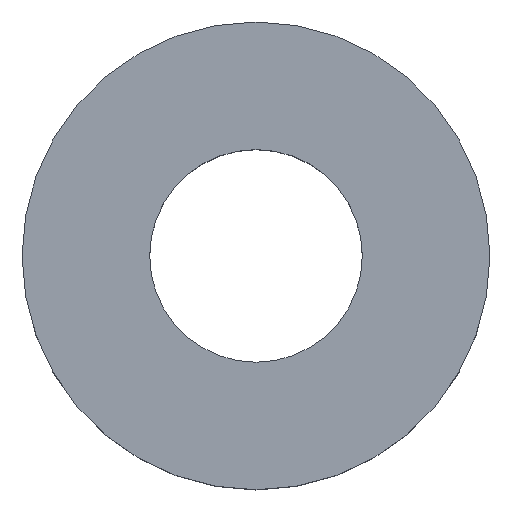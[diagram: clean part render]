
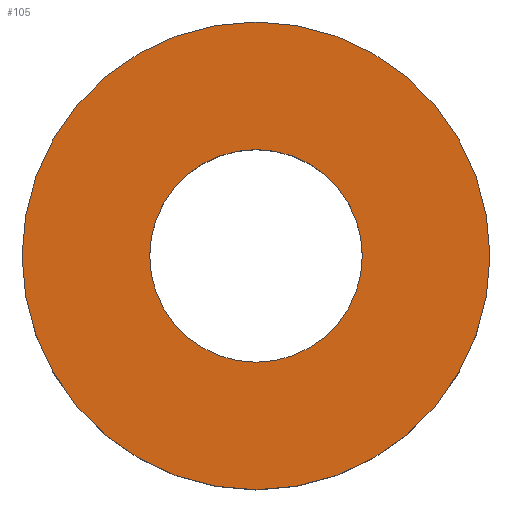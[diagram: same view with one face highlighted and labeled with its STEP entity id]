
A CAD part, top view. The second image highlights one B-rep face of the part: STEP entity #105.
In plain terms, the highlighted planar face has unit normal (0, 0, 1).
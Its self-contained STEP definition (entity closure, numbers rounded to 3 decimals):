
#21 = EDGE_CURVE('',#22,#22,#24,.T.);
#22 = VERTEX_POINT('',#23);
#23 = CARTESIAN_POINT('',(55.,0.,-50.));
#24 = SURFACE_CURVE('',#25,(#30,#42),.PCURVE_S1.);
#25 = CIRCLE('',#26,55.);
#26 = AXIS2_PLACEMENT_3D('',#27,#28,#29);
#27 = CARTESIAN_POINT('',(0.,0.,-50.));
#28 = DIRECTION('',(0.,0.,1.));
#29 = DIRECTION('',(1.,0.,-0.));
#30 = PCURVE('',#31,#36);
#31 = CYLINDRICAL_SURFACE('',#32,55.);
#32 = AXIS2_PLACEMENT_3D('',#33,#34,#35);
#33 = CARTESIAN_POINT('',(0.,0.,-80.));
#34 = DIRECTION('',(0.,0.,1.));
#35 = DIRECTION('',(1.,0.,-0.));
#36 = DEFINITIONAL_REPRESENTATION('',(#37),#41);
#37 = LINE('',#38,#39);
#38 = CARTESIAN_POINT('',(0.,30.));
#39 = VECTOR('',#40,1.);
#40 = DIRECTION('',(1.,0.));
#41 = ( GEOMETRIC_REPRESENTATION_CONTEXT(2) 
PARAMETRIC_REPRESENTATION_CONTEXT() REPRESENTATION_CONTEXT('2D SPACE',''
  ) );
#42 = PCURVE('',#43,#48);
#43 = PLANE('',#44);
#44 = AXIS2_PLACEMENT_3D('',#45,#46,#47);
#45 = CARTESIAN_POINT('',(0.,0.,-50.));
#46 = DIRECTION('',(0.,0.,1.));
#47 = DIRECTION('',(1.,0.,-0.));
#48 = DEFINITIONAL_REPRESENTATION('',(#49),#53);
#49 = CIRCLE('',#50,55.);
#50 = AXIS2_PLACEMENT_2D('',#51,#52);
#51 = CARTESIAN_POINT('',(0.,0.));
#52 = DIRECTION('',(1.,0.));
#53 = ( GEOMETRIC_REPRESENTATION_CONTEXT(2) 
PARAMETRIC_REPRESENTATION_CONTEXT() REPRESENTATION_CONTEXT('2D SPACE',''
  ) );
#105 = ADVANCED_FACE('',(#106,#109),#43,.T.);
#106 = FACE_BOUND('',#107,.T.);
#107 = EDGE_LOOP('',(#108));
#108 = ORIENTED_EDGE('',*,*,#21,.T.);
#109 = FACE_BOUND('',#110,.T.);
#110 = EDGE_LOOP('',(#111));
#111 = ORIENTED_EDGE('',*,*,#112,.F.);
#112 = EDGE_CURVE('',#113,#113,#115,.T.);
#113 = VERTEX_POINT('',#114);
#114 = CARTESIAN_POINT('',(25.,0.,-50.));
#115 = SURFACE_CURVE('',#116,(#121,#128),.PCURVE_S1.);
#116 = CIRCLE('',#117,25.);
#117 = AXIS2_PLACEMENT_3D('',#118,#119,#120);
#118 = CARTESIAN_POINT('',(0.,0.,-50.));
#119 = DIRECTION('',(0.,0.,1.));
#120 = DIRECTION('',(1.,0.,-0.));
#121 = PCURVE('',#43,#122);
#122 = DEFINITIONAL_REPRESENTATION('',(#123),#127);
#123 = CIRCLE('',#124,25.);
#124 = AXIS2_PLACEMENT_2D('',#125,#126);
#125 = CARTESIAN_POINT('',(0.,0.));
#126 = DIRECTION('',(1.,0.));
#127 = ( GEOMETRIC_REPRESENTATION_CONTEXT(2) 
PARAMETRIC_REPRESENTATION_CONTEXT() REPRESENTATION_CONTEXT('2D SPACE',''
  ) );
#128 = PCURVE('',#129,#134);
#129 = CYLINDRICAL_SURFACE('',#130,25.);
#130 = AXIS2_PLACEMENT_3D('',#131,#132,#133);
#131 = CARTESIAN_POINT('',(0.,0.,-81.));
#132 = DIRECTION('',(0.,0.,1.));
#133 = DIRECTION('',(1.,0.,-0.));
#134 = DEFINITIONAL_REPRESENTATION('',(#135),#139);
#135 = LINE('',#136,#137);
#136 = CARTESIAN_POINT('',(0.,31.));
#137 = VECTOR('',#138,1.);
#138 = DIRECTION('',(1.,0.));
#139 = ( GEOMETRIC_REPRESENTATION_CONTEXT(2) 
PARAMETRIC_REPRESENTATION_CONTEXT() REPRESENTATION_CONTEXT('2D SPACE',''
  ) );
